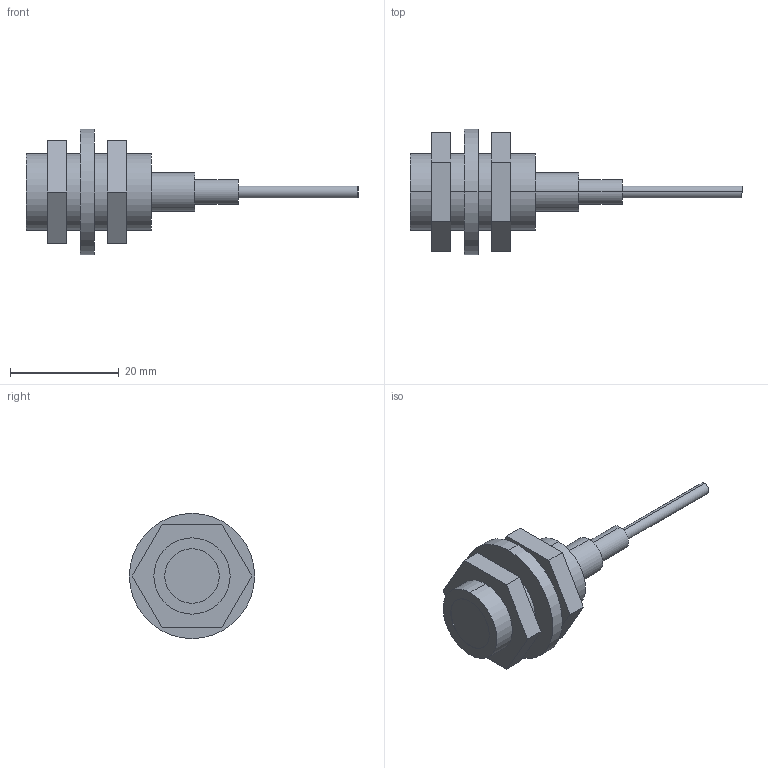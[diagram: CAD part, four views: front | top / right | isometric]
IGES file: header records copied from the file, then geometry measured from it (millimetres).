
Start section: SolidWorks IGES FILE using analytic representation for surfaces
Global section: file name: C:\Documents and Settings\yk0651\デスクトップ\3D_catalog_050929\0_IGES\FT-FM10L.IGS; native system: SolidWorks 2004 by SolidWorks Corporation; preprocessor: Version 5.3; author: yk0651; date: 051002.165552; units: millimetre
Bounding box: 61 x 23 x 23 mm (x, y, z)
Volume: 5816.2 mm3; surface area: 3980.8 mm2
Topology: 4 solids, 4 shells, 42 faces, 90 edges, 60 vertices
Faces by surface type: plane 24, revolution 18
